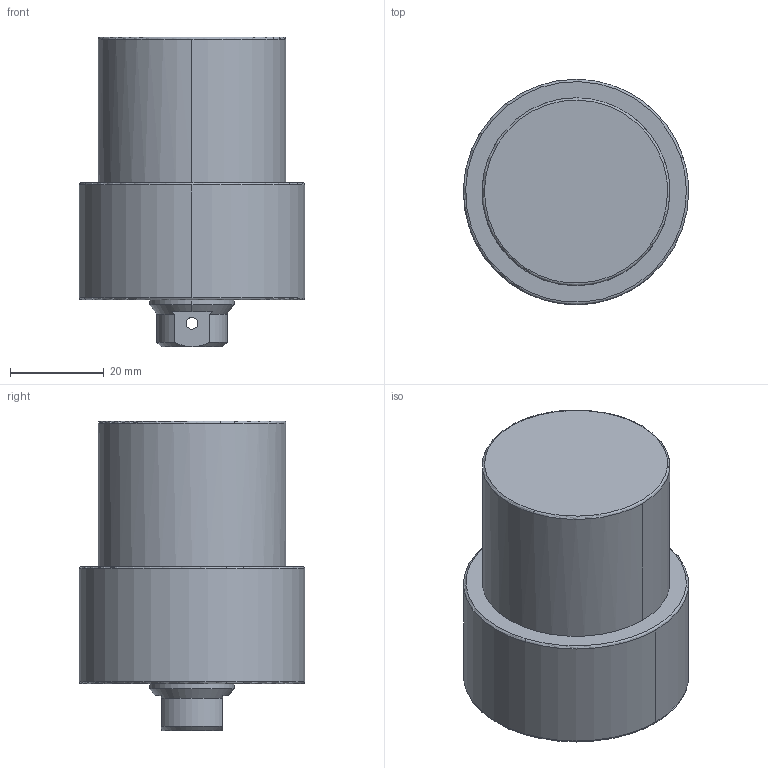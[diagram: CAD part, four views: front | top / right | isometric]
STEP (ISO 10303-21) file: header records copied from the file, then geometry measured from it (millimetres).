
FILE_DESCRIPTION((' '),'2;1');
FILE_NAME( 'TLLU-040GB-020.STEP.stp', '2025-10-24T16:37:11', (' '), ('--- Datakit www.datakit.com---'), ' Datakit CrossCadWare V2024.1 Dec 21 2023', 'Mastercam 2025', ' ');
FILE_SCHEMA(('AUTOMOTIVE_DESIGN { 1 0 10303 214 1 1 1 1 }'));
Length unit declared in the file: millimetre
Products named in the file (1): TLLU-040GB-020
Bounding box: 47.99 x 48 x 66 mm (x, y, z)
Volume: 84176.9 mm3; surface area: 12908.4 mm2
Topology: 1 solids, 1 shells, 66 faces, 200 edges, 133 vertices
Faces by surface type: cylinder 26, cone 24, plane 10, torus 6
Entity records: 3000 total; most frequent: CARTESIAN_POINT 1126, DIRECTION 428, ORIENTED_EDGE 380, EDGE_CURVE 190, AXIS2_PLACEMENT_3D 187, VERTEX_POINT 133, CIRCLE 120, EDGE_LOOP 77
